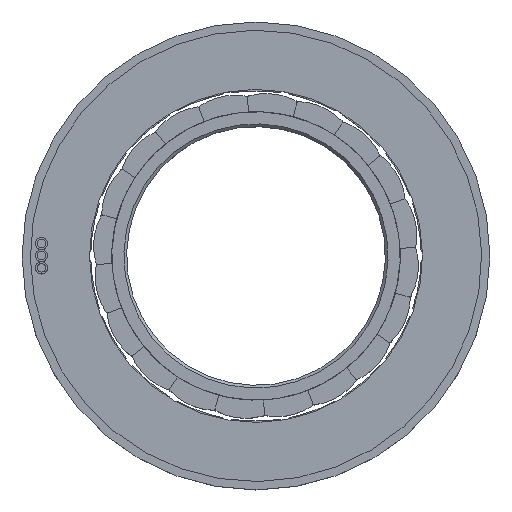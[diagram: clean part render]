
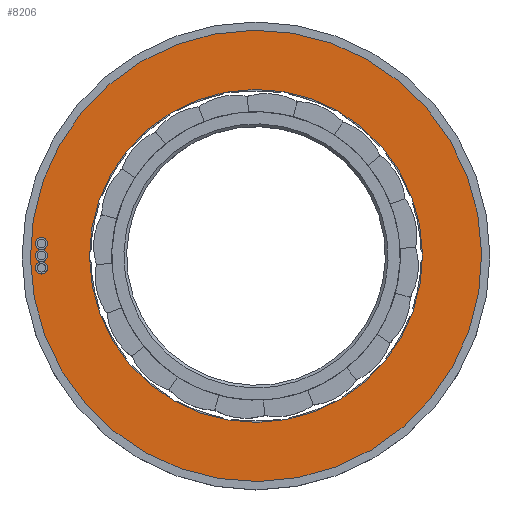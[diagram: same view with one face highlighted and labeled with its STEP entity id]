
A CAD part, top view. The second image highlights one B-rep face of the part: STEP entity #8206.
In plain terms, the highlighted planar face has unit normal (0, 0, 1).
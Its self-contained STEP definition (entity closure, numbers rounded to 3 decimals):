
#1005 = AXIS2_PLACEMENT_3D ( 'NONE', #13288, #17975, #8632 ) ;
#3015 = CIRCLE ( 'NONE', #14435, 30.25 ) ;
#4074 = DIRECTION ( 'NONE',  ( 0., 0., 1. ) ) ;
#4754 = PLANE ( 'NONE',  #6863 ) ;
#6169 = DIRECTION ( 'NONE',  ( 0.872, -0.49, 0. ) ) ;
#6569 = CARTESIAN_POINT ( 'NONE',  ( 35.74, -20.091, 15.9 ) ) ;
#6863 = AXIS2_PLACEMENT_3D ( 'NONE', #25846, #4074, #16206 ) ;
#7044 = EDGE_LOOP ( 'NONE', ( #11119 ) ) ;
#8206 = ADVANCED_FACE ( 'NONE', ( #9586, #9413 ), #4754, .T. ) ;
#8632 = DIRECTION ( 'NONE',  ( 0.872, -0.49, 0. ) ) ;
#9413 = FACE_BOUND ( 'NONE', #7044, .T. ) ;
#9586 = FACE_OUTER_BOUND ( 'NONE', #16712, .T. ) ;
#10818 = CARTESIAN_POINT ( 'NONE',  ( 0., 0., 15.9 ) ) ;
#11119 = ORIENTED_EDGE ( 'NONE', *, *, #17958, .F. ) ;
#13288 = CARTESIAN_POINT ( 'NONE',  ( 0., 0., 15.9 ) ) ;
#13541 = ORIENTED_EDGE ( 'NONE', *, *, #25157, .T. ) ;
#13584 = VERTEX_POINT ( 'NONE', #18875 ) ;
#14435 = AXIS2_PLACEMENT_3D ( 'NONE', #10818, #27501, #6169 ) ;
#16206 = DIRECTION ( 'NONE',  ( 0.872, -0.49, 0. ) ) ;
#16712 = EDGE_LOOP ( 'NONE', ( #13541 ) ) ;
#16916 = CIRCLE ( 'NONE', #1005, 41. ) ;
#17958 = EDGE_CURVE ( 'NONE', #13584, #13584, #3015, .T. ) ;
#17975 = DIRECTION ( 'NONE',  ( 0., 0., 1. ) ) ;
#18875 = CARTESIAN_POINT ( 'NONE',  ( 26.369, -14.823, 15.9 ) ) ;
#25157 = EDGE_CURVE ( 'NONE', #27909, #27909, #16916, .T. ) ;
#25846 = CARTESIAN_POINT ( 'NONE',  ( 0., 0., 15.9 ) ) ;
#27501 = DIRECTION ( 'NONE',  ( 0., 0., 1. ) ) ;
#27909 = VERTEX_POINT ( 'NONE', #6569 ) ;
